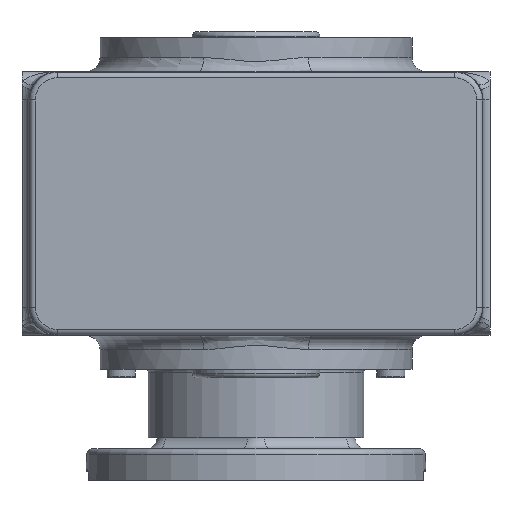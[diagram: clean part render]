
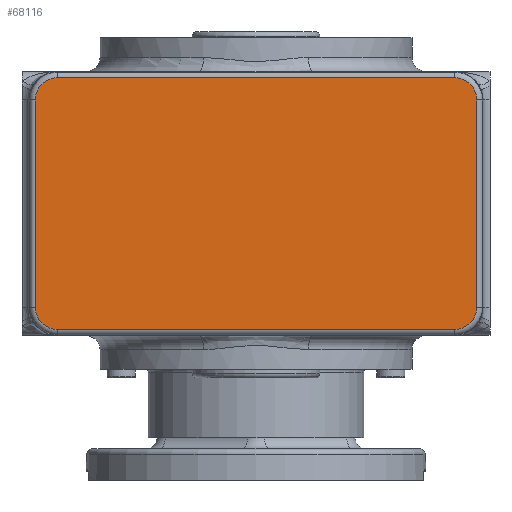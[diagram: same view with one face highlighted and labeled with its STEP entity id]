
A CAD part, front view. The second image highlights one B-rep face of the part: STEP entity #68116.
In plain terms, the highlighted planar face has unit normal (0, -1, 0).
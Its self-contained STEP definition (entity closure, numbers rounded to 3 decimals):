
#22671 = DIRECTION ( 'NONE',  ( 0., 0., -1. ) ) ;
#22672 = DIRECTION ( 'NONE',  ( 0., -1., 0. ) ) ;
#22673 = CARTESIAN_POINT ( 'NONE',  ( 70., -74.5, 10. ) ) ;
#22674 = AXIS2_PLACEMENT_3D ( 'NONE', #22673, #22672, #22671 ) ;
#22675 = CIRCLE ( 'NONE', #22674, 7.86 ) ;
#67965 = VERTEX_POINT ( 'NONE', #98490 ) ;
#68093 = ORIENTED_EDGE ( 'NONE', *, *, #68095, .T. ) ;
#68095 = EDGE_CURVE ( 'NONE', #68169, #68096, #104783, .T. ) ;
#68096 = VERTEX_POINT ( 'NONE', #104779 ) ;
#68098 = ORIENTED_EDGE ( 'NONE', *, *, #68099, .T. ) ;
#68099 = EDGE_CURVE ( 'NONE', #68096, #68100, #104778, .T. ) ;
#68100 = VERTEX_POINT ( 'NONE', #104774 ) ;
#68101 = ORIENTED_EDGE ( 'NONE', *, *, #68102, .T. ) ;
#68102 = EDGE_CURVE ( 'NONE', #68100, #68103, #104773, .T. ) ;
#68103 = VERTEX_POINT ( 'NONE', #104820 ) ;
#68104 = ORIENTED_EDGE ( 'NONE', *, *, #68105, .T. ) ;
#68105 = EDGE_CURVE ( 'NONE', #68103, #67965, #104819, .T. ) ;
#68116 = ADVANCED_FACE ( 'NONE', ( #105165 ), #105164, .T. ) ;
#68117 = EDGE_LOOP ( 'NONE', ( #68120, #68126, #68166, #68093, #68098, #68101, #68104, #80020 ) ) ;
#68120 = ORIENTED_EDGE ( 'NONE', *, *, #68121, .T. ) ;
#68121 = EDGE_CURVE ( 'NONE', #68122, #68123, #105154, .T. ) ;
#68122 = VERTEX_POINT ( 'NONE', #105150 ) ;
#68123 = VERTEX_POINT ( 'NONE', #105193 ) ;
#68126 = ORIENTED_EDGE ( 'NONE', *, *, #68127, .T. ) ;
#68127 = EDGE_CURVE ( 'NONE', #68123, #68128, #105595, .T. ) ;
#68128 = VERTEX_POINT ( 'NONE', #105590 ) ;
#68166 = ORIENTED_EDGE ( 'NONE', *, *, #68168, .T. ) ;
#68168 = EDGE_CURVE ( 'NONE', #68128, #68169, #105682, .T. ) ;
#68169 = VERTEX_POINT ( 'NONE', #105678 ) ;
#70832 = EDGE_CURVE ( 'NONE', #67965, #68122, #22675, .T. ) ;
#80020 = ORIENTED_EDGE ( 'NONE', *, *, #70832, .T. ) ;
#98490 = CARTESIAN_POINT ( 'NONE',  ( 70., -74.5, 2.14 ) ) ;
#104769 = DIRECTION ( 'NONE',  ( 0., 0., -1. ) ) ;
#104770 = DIRECTION ( 'NONE',  ( 0., -1., 0. ) ) ;
#104771 = CARTESIAN_POINT ( 'NONE',  ( -70., -74.5, 10. ) ) ;
#104772 = AXIS2_PLACEMENT_3D ( 'NONE', #104771, #104770, #104769 ) ;
#104773 = CIRCLE ( 'NONE', #104772, 7.86 ) ;
#104774 = CARTESIAN_POINT ( 'NONE',  ( -77.86, -74.5, 10. ) ) ;
#104775 = DIRECTION ( 'NONE',  ( 0., 0., -1. ) ) ;
#104776 = VECTOR ( 'NONE', #104775, 1000. ) ;
#104777 = CARTESIAN_POINT ( 'NONE',  ( -77.86, -74.5, 10. ) ) ;
#104778 = LINE ( 'NONE', #104777, #104776 ) ;
#104779 = CARTESIAN_POINT ( 'NONE',  ( -77.86, -74.5, 83. ) ) ;
#104780 = DIRECTION ( 'NONE',  ( 0., 0., -1. ) ) ;
#104781 = DIRECTION ( 'NONE',  ( 0., -1., 0. ) ) ;
#104782 = AXIS2_PLACEMENT_3D ( 'NONE', #104788, #104781, #104780 ) ;
#104783 = CIRCLE ( 'NONE', #104782, 7.86 ) ;
#104788 = CARTESIAN_POINT ( 'NONE',  ( -70., -74.5, 83. ) ) ;
#104816 = DIRECTION ( 'NONE',  ( 1., 0., 0. ) ) ;
#104817 = VECTOR ( 'NONE', #104816, 1000. ) ;
#104818 = CARTESIAN_POINT ( 'NONE',  ( 70., -74.5, 2.14 ) ) ;
#104819 = LINE ( 'NONE', #104818, #104817 ) ;
#104820 = CARTESIAN_POINT ( 'NONE',  ( -70., -74.5, 2.14 ) ) ;
#105150 = CARTESIAN_POINT ( 'NONE',  ( 77.86, -74.5, 10. ) ) ;
#105151 = DIRECTION ( 'NONE',  ( 0., 0., 1. ) ) ;
#105152 = VECTOR ( 'NONE', #105151, 1000. ) ;
#105153 = CARTESIAN_POINT ( 'NONE',  ( 77.86, -74.5, 83. ) ) ;
#105154 = LINE ( 'NONE', #105153, #105152 ) ;
#105159 = DIRECTION ( 'NONE',  ( 0., 0., -1. ) ) ;
#105160 = DIRECTION ( 'NONE',  ( 0., -1., 0. ) ) ;
#105161 = CARTESIAN_POINT ( 'NONE',  ( 70., -74.5, 10. ) ) ;
#105162 = AXIS2_PLACEMENT_3D ( 'NONE', #105161, #105160, #105159 ) ;
#105164 = PLANE ( 'NONE',  #105162 ) ;
#105165 = FACE_OUTER_BOUND ( 'NONE', #68117, .T. ) ;
#105193 = CARTESIAN_POINT ( 'NONE',  ( 77.86, -74.5, 83. ) ) ;
#105590 = CARTESIAN_POINT ( 'NONE',  ( 70., -74.5, 90.86 ) ) ;
#105591 = DIRECTION ( 'NONE',  ( 0., 0., -1. ) ) ;
#105592 = DIRECTION ( 'NONE',  ( 0., -1., 0. ) ) ;
#105593 = CARTESIAN_POINT ( 'NONE',  ( 70., -74.5, 83. ) ) ;
#105594 = AXIS2_PLACEMENT_3D ( 'NONE', #105593, #105592, #105591 ) ;
#105595 = CIRCLE ( 'NONE', #105594, 7.86 ) ;
#105678 = CARTESIAN_POINT ( 'NONE',  ( -70., -74.5, 90.86 ) ) ;
#105679 = DIRECTION ( 'NONE',  ( -1., 0., 0. ) ) ;
#105680 = VECTOR ( 'NONE', #105679, 1000. ) ;
#105681 = CARTESIAN_POINT ( 'NONE',  ( -70., -74.5, 90.86 ) ) ;
#105682 = LINE ( 'NONE', #105681, #105680 ) ;
